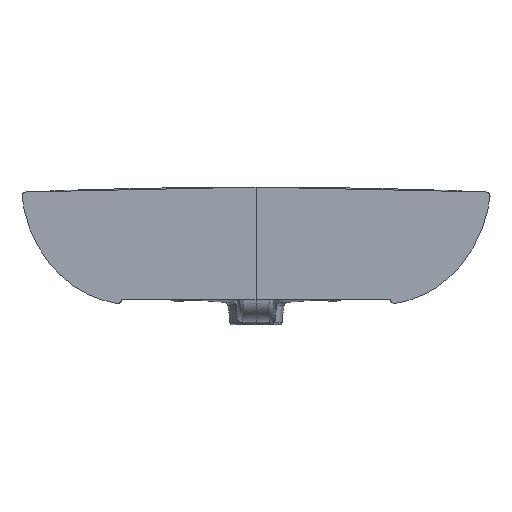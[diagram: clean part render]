
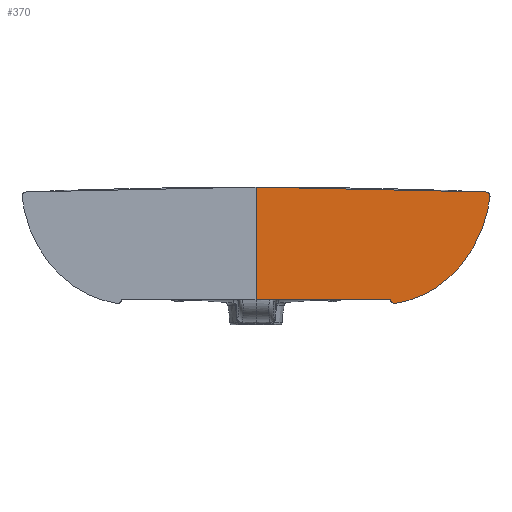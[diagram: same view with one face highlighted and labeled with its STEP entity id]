
A CAD part, front view. The second image highlights one B-rep face of the part: STEP entity #370.
In plain terms, the highlighted free-form (B-spline) face has degree [1, 1] with [2, 2] control points.
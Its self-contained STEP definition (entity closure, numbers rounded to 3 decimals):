
#274=LINE('',#3054,#280);
#280=VECTOR('',#2766,1.);
#370=ADVANCED_FACE('',(#607),#491,.F.);
#491=B_SPLINE_SURFACE_WITH_KNOTS('',1,1,((#14308,#14309),(#14310,#14311)),
 .UNSPECIFIED.,.F.,.F.,.F.,(2,2),(2,2),(0.,1.),(0.,1.),.UNSPECIFIED.);
#607=FACE_OUTER_BOUND('',#775,.T.);
#775=EDGE_LOOP('',(#1296,#1297,#1298,#1299,#1300,#1301,#1302));
#1296=ORIENTED_EDGE('',*,*,#2211,.F.);
#1297=ORIENTED_EDGE('',*,*,#2212,.F.);
#1298=ORIENTED_EDGE('',*,*,#2213,.F.);
#1299=ORIENTED_EDGE('',*,*,#2214,.F.);
#1300=ORIENTED_EDGE('',*,*,#2215,.F.);
#1301=ORIENTED_EDGE('',*,*,#1983,.T.);
#1302=ORIENTED_EDGE('',*,*,#2200,.T.);
#1725=VERTEX_POINT('',#3028);
#1727=VERTEX_POINT('',#3055);
#1861=VERTEX_POINT('',#14040);
#1872=VERTEX_POINT('',#14258);
#1873=VERTEX_POINT('',#14281);
#1874=VERTEX_POINT('',#14286);
#1875=VERTEX_POINT('',#14303);
#1983=EDGE_CURVE('',#1727,#1725,#274,.T.);
#2200=EDGE_CURVE('',#1725,#1861,#2547,.T.);
#2211=EDGE_CURVE('',#1872,#1861,#2558,.T.);
#2212=EDGE_CURVE('',#1873,#1872,#2559,.T.);
#2213=EDGE_CURVE('',#1874,#1873,#2560,.T.);
#2214=EDGE_CURVE('',#1875,#1874,#2561,.T.);
#2215=EDGE_CURVE('',#1727,#1875,#2562,.T.);
#2547=B_SPLINE_CURVE_WITH_KNOTS('',1,(#14042,#14043),.UNSPECIFIED.,.F.,
 .F.,(2,2),(0.,1.),.UNSPECIFIED.);
#2558=B_SPLINE_CURVE_WITH_KNOTS('',3,(#14234,#14235,#14236,#14237,#14238,
#14239,#14240,#14241,#14242,#14243,#14244,#14245,#14246,#14247,#14248,#14249,
#14250,#14251,#14252,#14253,#14254,#14255,#14256,#14257),.UNSPECIFIED.,
 .F.,.F.,(4,2,2,2,2,2,2,2,2,2,2,4),(0.,0.25,0.375,
0.438,0.5,0.625,0.688,
0.719,0.734,0.75,0.875,
1.),.UNSPECIFIED.);
#2559=B_SPLINE_CURVE_WITH_KNOTS('',3,(#14259,#14260,#14261,#14262,#14263,
#14264,#14265,#14266,#14267,#14268,#14269,#14270,#14271,#14272,#14273,#14274,
#14275,#14276,#14277,#14278,#14279,#14280),.UNSPECIFIED.,.F.,.F.,(4,2,2,
2,2,1,1,2,2,2,2,4),(0.,0.25,0.375,0.438,
0.469,0.484,0.492,0.496,
0.5,0.75,0.875,1.),.UNSPECIFIED.);
#2560=B_SPLINE_CURVE_WITH_KNOTS('',3,(#14282,#14283,#14284,#14285),
 .UNSPECIFIED.,.F.,.F.,(4,4),(0.,1.),.UNSPECIFIED.);
#2561=B_SPLINE_CURVE_WITH_KNOTS('',3,(#14287,#14288,#14289,#14290,#14291,
#14292,#14293,#14294,#14295,#14296,#14297,#14298,#14299,#14300,#14301,#14302),
 .UNSPECIFIED.,.F.,.F.,(4,2,2,2,2,2,2,4),(0.,0.25,0.375,
0.438,0.469,0.484,0.5,
1.),.UNSPECIFIED.);
#2562=B_SPLINE_CURVE_WITH_KNOTS('',3,(#14304,#14305,#14306,#14307),
 .UNSPECIFIED.,.F.,.F.,(4,4),(0.,1.),.UNSPECIFIED.);
#2766=DIRECTION('',(0.,0.,-1.));
#3028=CARTESIAN_POINT('',(0.,0.,-145.553));
#3054=CARTESIAN_POINT('',(0.,0.,-62.437));
#3055=CARTESIAN_POINT('',(0.,0.,10.));
#14040=CARTESIAN_POINT('',(186.199,0.,-145.553));
#14042=CARTESIAN_POINT('',(0.,0.,-145.553));
#14043=CARTESIAN_POINT('',(186.199,0.,-145.553));
#14234=CARTESIAN_POINT('',(193.114,0.,-151.141));
#14235=CARTESIAN_POINT('',(192.373,0.,-151.257));
#14236=CARTESIAN_POINT('',(191.547,0.001,-151.238));
#14237=CARTESIAN_POINT('',(190.318,0.001,-150.928));
#14238=CARTESIAN_POINT('',(189.911,0.001,-150.777));
#14239=CARTESIAN_POINT('',(189.327,0.,-150.486));
#14240=CARTESIAN_POINT('',(189.136,0.,-150.379));
#14241=CARTESIAN_POINT('',(188.768,0.,-150.143));
#14242=CARTESIAN_POINT('',(188.549,0.,-149.983));
#14243=CARTESIAN_POINT('',(188.161,0.,-149.668));
#14244=CARTESIAN_POINT('',(187.885,0.,-149.408));
#14245=CARTESIAN_POINT('',(187.479,0.,-148.928));
#14246=CARTESIAN_POINT('',(187.345,0.,-148.753));
#14247=CARTESIAN_POINT('',(187.153,0.,-148.469));
#14248=CARTESIAN_POINT('',(187.09,0.,-148.371));
#14249=CARTESIAN_POINT('',(186.999,0.,-148.218));
#14250=CARTESIAN_POINT('',(186.97,0.,-148.166));
#14251=CARTESIAN_POINT('',(186.911,0.,-148.06));
#14252=CARTESIAN_POINT('',(186.897,0.,-148.036));
#14253=CARTESIAN_POINT('',(186.509,0.,-147.283));
#14254=CARTESIAN_POINT('',(186.372,-0.001,-146.726));
#14255=CARTESIAN_POINT('',(186.219,0.,-145.923));
#14256=CARTESIAN_POINT('',(186.206,0.,-145.67));
#14257=CARTESIAN_POINT('',(186.199,0.,-145.553));
#14258=CARTESIAN_POINT('',(193.114,0.,-151.137));
#14259=CARTESIAN_POINT('',(321.118,0.,-21.886));
#14260=CARTESIAN_POINT('',(318.172,0.,-35.468));
#14261=CARTESIAN_POINT('',(313.416,0.,-49.964));
#14262=CARTESIAN_POINT('',(302.603,0.,-71.71));
#14263=CARTESIAN_POINT('',(298.387,0.,-78.949));
#14264=CARTESIAN_POINT('',(291.08,0.,-89.535));
#14265=CARTESIAN_POINT('',(288.481,0.,-93.017));
#14266=CARTESIAN_POINT('',(284.335,0.,-98.134));
#14267=CARTESIAN_POINT('',(282.912,0.,-99.821));
#14268=CARTESIAN_POINT('',(280.716,0.,-102.321));
#14269=CARTESIAN_POINT('',(279.602,0.,-103.563));
#14270=CARTESIAN_POINT('',(278.275,0.,-104.998));
#14271=CARTESIAN_POINT('',(277.701,0.,-105.61));
#14272=CARTESIAN_POINT('',(277.316,0.,-106.017));
#14273=CARTESIAN_POINT('',(277.102,0.,-106.243));
#14274=CARTESIAN_POINT('',(265.887,0.,-118.003));
#14275=CARTESIAN_POINT('',(253.308,0.001,-127.804));
#14276=CARTESIAN_POINT('',(232.249,0.002,-139.271));
#14277=CARTESIAN_POINT('',(224.861,0.002,-142.549));
#14278=CARTESIAN_POINT('',(209.407,0.001,-147.841));
#14279=CARTESIAN_POINT('',(201.33,0.001,-149.851));
#14280=CARTESIAN_POINT('',(193.113,0.,-151.132));
#14281=CARTESIAN_POINT('',(321.118,0.,-21.886));
#14282=CARTESIAN_POINT('',(324.275,0.,-3.47));
#14283=CARTESIAN_POINT('',(323.497,0.002,-9.651));
#14284=CARTESIAN_POINT('',(322.439,0.002,-15.797));
#14285=CARTESIAN_POINT('',(321.118,0.,-21.886));
#14286=CARTESIAN_POINT('',(324.275,0.001,-3.47));
#14287=CARTESIAN_POINT('',(318.573,0.,3.274));
#14288=CARTESIAN_POINT('',(319.927,0.,3.217));
#14289=CARTESIAN_POINT('',(321.084,0.003,2.675));
#14290=CARTESIAN_POINT('',(322.142,0.002,1.926));
#14291=CARTESIAN_POINT('',(322.397,0.002,1.69));
#14292=CARTESIAN_POINT('',(322.666,0.001,1.42));
#14293=CARTESIAN_POINT('',(322.736,0.001,1.343));
#14294=CARTESIAN_POINT('',(322.817,0.,1.253));
#14295=CARTESIAN_POINT('',(322.84,0.,1.227));
#14296=CARTESIAN_POINT('',(322.869,0.,1.194));
#14297=CARTESIAN_POINT('',(322.877,0.,1.184));
#14298=CARTESIAN_POINT('',(322.892,0.,1.166));
#14299=CARTESIAN_POINT('',(322.87,0.,1.193));
#14300=CARTESIAN_POINT('',(324.007,0.,-0.152));
#14301=CARTESIAN_POINT('',(324.464,0.,-1.971));
#14302=CARTESIAN_POINT('',(324.275,0.,-3.469));
#14303=CARTESIAN_POINT('',(318.573,0.,3.274));
#14304=CARTESIAN_POINT('',(0.,0.,10.));
#14305=CARTESIAN_POINT('',(106.223,0.,10.));
#14306=CARTESIAN_POINT('',(212.445,0.,7.756));
#14307=CARTESIAN_POINT('',(318.573,0.,3.274));
#14308=CARTESIAN_POINT('',(-88.102,0.,-189.67));
#14309=CARTESIAN_POINT('',(345.883,0.,-189.67));
#14310=CARTESIAN_POINT('',(-88.102,0.,64.796));
#14311=CARTESIAN_POINT('',(345.883,0.,64.796));
